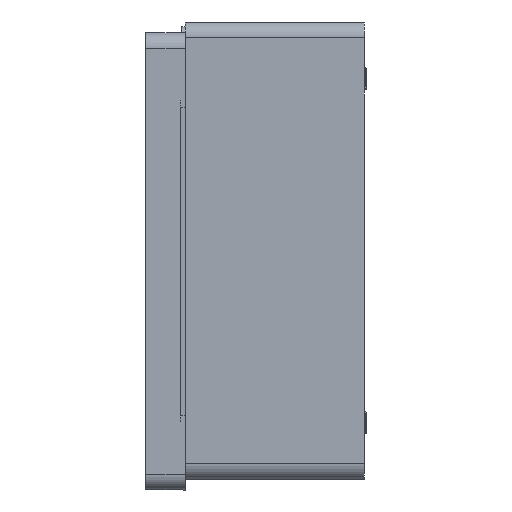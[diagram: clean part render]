
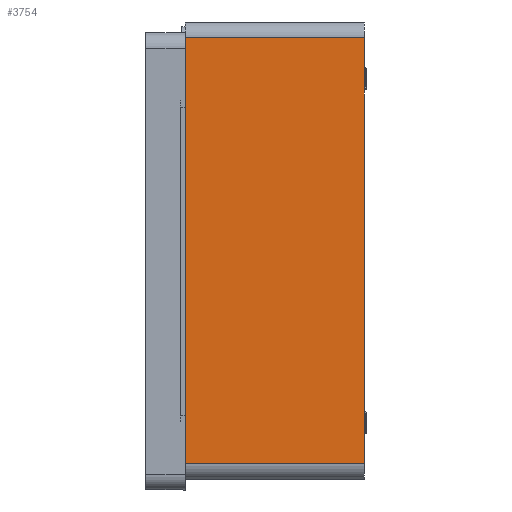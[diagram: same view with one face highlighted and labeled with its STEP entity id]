
A CAD part, left-side view. The second image highlights one B-rep face of the part: STEP entity #3754.
In plain terms, the highlighted planar face has unit normal (-1, 0, 0).
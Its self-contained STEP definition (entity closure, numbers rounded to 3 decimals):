
#229 = CARTESIAN_POINT ( 'NONE',  ( -200., 0., -107. ) ) ;
#394 = CARTESIAN_POINT ( 'NONE',  ( -200., 90., -107. ) ) ;
#731 = DIRECTION ( 'NONE',  ( 0., 1., 0. ) ) ;
#1044 = PLANE ( 'NONE',  #21886 ) ;
#1049 = VECTOR ( 'NONE', #9490, 1000. ) ;
#1181 = CARTESIAN_POINT ( 'NONE',  ( -200., 90., -115. ) ) ;
#3754 = ADVANCED_FACE ( 'NONE', ( #11872 ), #1044, .F. ) ;
#4080 = VERTEX_POINT ( 'NONE', #27521 ) ;
#5999 = ORIENTED_EDGE ( 'NONE', *, *, #19567, .F. ) ;
#6554 = CARTESIAN_POINT ( 'NONE',  ( -200., 90., -115. ) ) ;
#8814 = VECTOR ( 'NONE', #12897, 1000. ) ;
#9459 = LINE ( 'NONE', #26457, #19478 ) ;
#9490 = DIRECTION ( 'NONE',  ( 0., 0., 1. ) ) ;
#9805 = ORIENTED_EDGE ( 'NONE', *, *, #17798, .T. ) ;
#10889 = VERTEX_POINT ( 'NONE', #394 ) ;
#11872 = FACE_OUTER_BOUND ( 'NONE', #16303, .T. ) ;
#11902 = ORIENTED_EDGE ( 'NONE', *, *, #26971, .T. ) ;
#12897 = DIRECTION ( 'NONE',  ( 0., 0., 1. ) ) ;
#15648 = CARTESIAN_POINT ( 'NONE',  ( -200., 0., -115. ) ) ;
#16303 = EDGE_LOOP ( 'NONE', ( #11902, #20409, #5999, #9805 ) ) ;
#16361 = DIRECTION ( 'NONE',  ( 0., 0., -1. ) ) ;
#17282 = EDGE_CURVE ( 'NONE', #23409, #4080, #9459, .T. ) ;
#17524 = LINE ( 'NONE', #6554, #8814 ) ;
#17798 = EDGE_CURVE ( 'NONE', #10889, #20715, #21180, .T. ) ;
#19478 = VECTOR ( 'NONE', #731, 1000. ) ;
#19567 = EDGE_CURVE ( 'NONE', #10889, #4080, #17524, .T. ) ;
#20409 = ORIENTED_EDGE ( 'NONE', *, *, #17282, .T. ) ;
#20715 = VERTEX_POINT ( 'NONE', #229 ) ;
#21180 = LINE ( 'NONE', #23160, #26462 ) ;
#21886 = AXIS2_PLACEMENT_3D ( 'NONE', #1181, #27342, #16361 ) ;
#22279 = LINE ( 'NONE', #15648, #1049 ) ;
#23160 = CARTESIAN_POINT ( 'NONE',  ( -200., 90., -107. ) ) ;
#23409 = VERTEX_POINT ( 'NONE', #26499 ) ;
#25272 = DIRECTION ( 'NONE',  ( 0., -1., 0. ) ) ;
#26457 = CARTESIAN_POINT ( 'NONE',  ( -200., 90., 107. ) ) ;
#26462 = VECTOR ( 'NONE', #25272, 1000. ) ;
#26499 = CARTESIAN_POINT ( 'NONE',  ( -200., 0., 107. ) ) ;
#26971 = EDGE_CURVE ( 'NONE', #20715, #23409, #22279, .T. ) ;
#27342 = DIRECTION ( 'NONE',  ( 1., 0., 0. ) ) ;
#27521 = CARTESIAN_POINT ( 'NONE',  ( -200., 90., 107. ) ) ;
